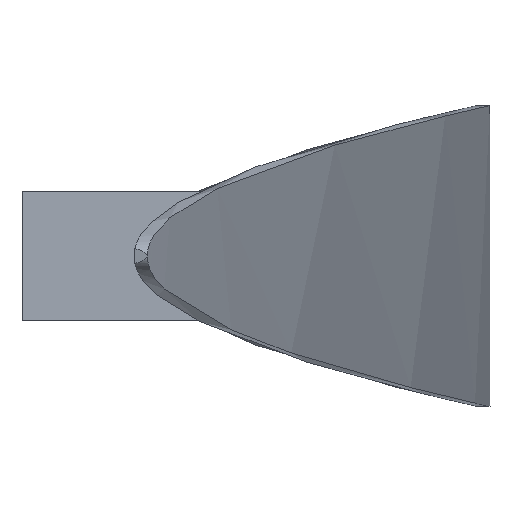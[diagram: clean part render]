
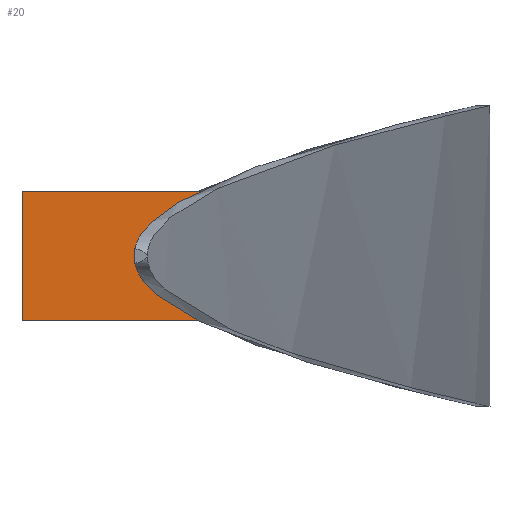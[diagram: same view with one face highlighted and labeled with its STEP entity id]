
A CAD part, left-side view. The second image highlights one B-rep face of the part: STEP entity #20.
In plain terms, the highlighted planar face has unit normal (-1, 0, 0).
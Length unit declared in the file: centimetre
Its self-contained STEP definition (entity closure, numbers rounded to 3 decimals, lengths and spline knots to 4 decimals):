
#20=ADVANCED_FACE('',(#32),#160,.T.);
#32=FACE_OUTER_BOUND('',#44,.T.);
#44=EDGE_LOOP('',(#62,#63,#64,#65));
#62=ORIENTED_EDGE('',*,*,#105,.T.);
#63=ORIENTED_EDGE('',*,*,#106,.T.);
#64=ORIENTED_EDGE('',*,*,#107,.T.);
#65=ORIENTED_EDGE('',*,*,#103,.F.);
#103=EDGE_CURVE('',#146,#147,#130,.T.);
#105=EDGE_CURVE('',#146,#148,#131,.T.);
#106=EDGE_CURVE('',#148,#149,#132,.T.);
#107=EDGE_CURVE('',#149,#147,#133,.T.);
#130=B_SPLINE_CURVE_WITH_KNOTS('',1,(#305,#306),.UNSPECIFIED.,.F.,.F.,(2,
2),(-30.,0.),.UNSPECIFIED.);
#131=B_SPLINE_CURVE_WITH_KNOTS('',1,(#310,#311),.UNSPECIFIED.,.F.,.F.,(2,
2),(-63.0018,0.),.UNSPECIFIED.);
#132=B_SPLINE_CURVE_WITH_KNOTS('',1,(#312,#313),.UNSPECIFIED.,.F.,.F.,(2,
2),(-30.,0.),.UNSPECIFIED.);
#133=B_SPLINE_CURVE_WITH_KNOTS('',1,(#314,#315),.UNSPECIFIED.,.F.,.F.,(2,
2),(0.,63.0018),.UNSPECIFIED.);
#146=VERTEX_POINT('',#290);
#147=VERTEX_POINT('',#291);
#148=VERTEX_POINT('',#292);
#149=VERTEX_POINT('',#293);
#160=PLANE('',#256);
#256=AXIS2_PLACEMENT_3D('',#282,#269,$);
#269=DIRECTION('',(-1.,0.,0.));
#282=CARTESIAN_POINT('',(1770.1987,1897.6165,85.2988));
#290=CARTESIAN_POINT('',(1770.1987,1897.6265,115.3088));
#291=CARTESIAN_POINT('',(1770.1987,1897.6265,85.3088));
#292=CARTESIAN_POINT('',(1770.1987,1960.6284,115.3088));
#293=CARTESIAN_POINT('',(1770.1987,1960.6284,85.3088));
#305=CARTESIAN_POINT('',(1770.1987,1897.6265,115.3088));
#306=CARTESIAN_POINT('',(1770.1987,1897.6265,85.3088));
#310=CARTESIAN_POINT('',(1770.1987,1897.6265,115.3088));
#311=CARTESIAN_POINT('',(1770.1987,1960.6284,115.3088));
#312=CARTESIAN_POINT('',(1770.1987,1960.6284,115.3088));
#313=CARTESIAN_POINT('',(1770.1987,1960.6284,85.3088));
#314=CARTESIAN_POINT('',(1770.1987,1960.6284,85.3088));
#315=CARTESIAN_POINT('',(1770.1987,1897.6265,85.3088));
